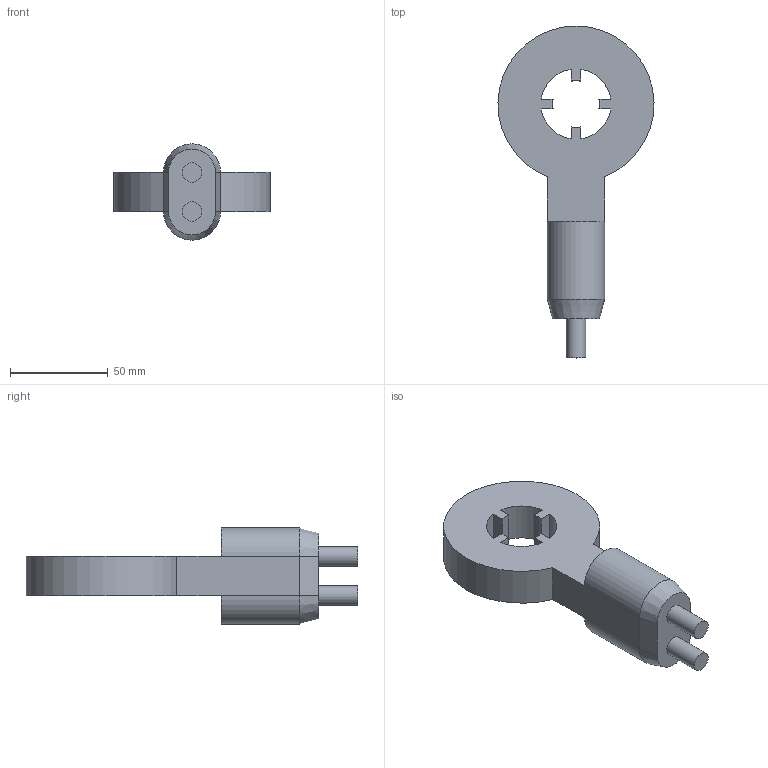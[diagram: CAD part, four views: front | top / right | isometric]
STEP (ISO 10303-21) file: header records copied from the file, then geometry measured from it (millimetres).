
FILE_DESCRIPTION(('STEP AP242'), '1');
FILE_NAME('ﾍ瑜粱', '', ('UNSPECIFIED'), ('UNSPECIFIED'), 'C3D Converter', 'C3D Toolkit', '');
FILE_SCHEMA(('AP242_MANAGED_MODEL_BASED_3D_ENGINEERING_MIM_LF { 1 0 10303 442 1 1 4 }'));
Length unit declared in the file: millimetre
Bounding box: 79.99 x 170.13 x 49.36 mm (x, y, z)
Volume: 159594.7 mm3; surface area: 27511.2 mm2
Topology: 1 solids, 1 shells, 34 faces, 82 edges, 52 vertices
Faces by surface type: plane 19, cylinder 13, cone 2
Full cylindrical faces by diameter (mm): 10 x2
Entity records: 1024 total; most frequent: DIRECTION 178, CARTESIAN_POINT 167, ORIENTED_EDGE 160, EDGE_CURVE 80, AXIS2_PLACEMENT_3D 63, VERTEX_POINT 52, LINE 52, VECTOR 52
